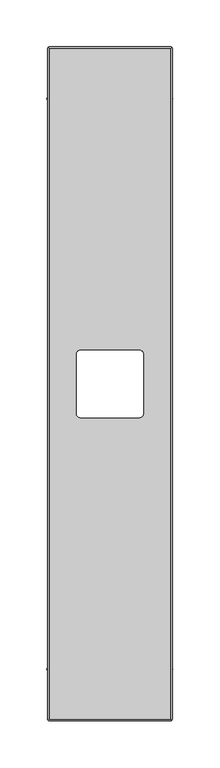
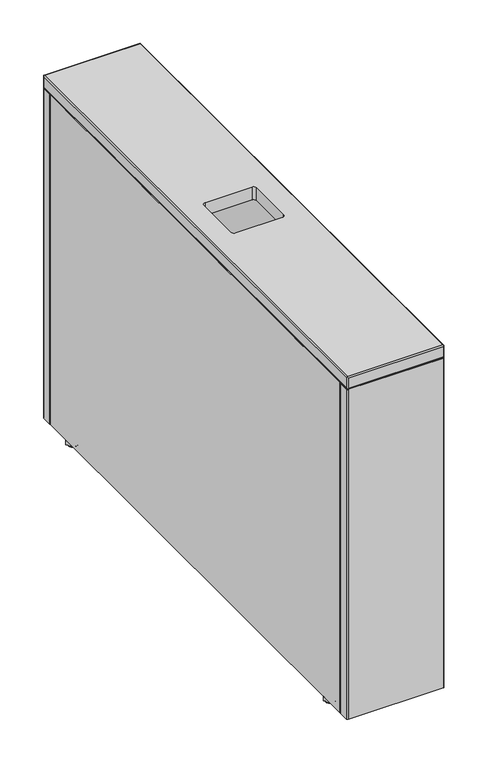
"""IFC4 building model written with IfcOpenShell, lengths in millimetres: furniture geometry, FREZZA_POP AD_Carter_for desk : Bracket_ZGBI - Embossed White."""

from ifc_helpers import new_model, si_unit, point, frame, frame_2d, origin, place, context, project, spatial, polyline, circle_curve, ellipse_curve, trimmed, segment, composite_curve, outline, extrude, source, transform, mapped, element, save
from ifc_brep_helpers import plane_surface, cylinder_surface, revolved_surface, advanced_brep


def furniture_3cd2dab1(model_context):
    return source(origin(), model_context, "Body", "SolidModel", [
        advanced_brep(
        [(1738.25, -743.75, 0.0), (1750.75, -743.75, 0.0), (1744.5, -743.75, 0.0), (1737.25, -743.75, 1.0), (1751.75, -743.75, 1.0), (1737.25, -743.75, 2.5), (1751.75, -743.75, 2.5), (1744.5, -743.75, 2.5)],
        [
            (0, 1, circle_curve(frame((1744.5, -743.75, 0.0), z_axis=(0.0, 0.0, -1.0), x_axis=(1.0, 0.0, 0.0)), 6.25)),
            (1, 2),
            (2, 0),
            (1, 0, circle_curve(frame((1744.5, -743.75, 0.0), z_axis=(0.0, 0.0, -1.0), x_axis=(1.0, 0.0, 0.0)), 6.25)),
            (3, 4, circle_curve(frame((1744.5, -743.75, 1.0), z_axis=(0.0, 0.0, -1.0), x_axis=(1.0, 0.0, 0.0)), 7.25)),
            (4, 1, circle_curve(frame((1750.75, -743.75, 1.0), z_axis=(0.0, 1.0, 0.0), x_axis=(1.0, 0.0, 0.0)), 1.0)),
            (0, 3, circle_curve(frame((1738.25, -743.75, 1.0), z_axis=(0.0, 1.0, 0.0), x_axis=(-1.0, 0.0, 0.0)), 1.0)),
            (4, 3, circle_curve(frame((1744.5, -743.75, 1.0), z_axis=(0.0, 0.0, -1.0), x_axis=(1.0, 0.0, 0.0)), 7.25)),
            (5, 6, circle_curve(frame((1744.5, -743.75, 2.5), z_axis=(0.0, 0.0, -1.0), x_axis=(1.0, 0.0, 0.0)), 7.25)),
            (6, 4),
            (3, 5),
            (6, 5, circle_curve(frame((1744.5, -743.75, 2.5), z_axis=(0.0, 0.0, -1.0), x_axis=(1.0, 0.0, 0.0)), 7.25)),
            (7, 6),
            (5, 7),
        ],
        [
            plane_surface(frame((1744.5, -743.75, 0.0), z_axis=(0.0, 0.0, -1.0), x_axis=(1.0, 0.0, 0.0))),
            revolved_surface(trimmed(ellipse_curve(frame((1750.75, -743.75, 1.0), z_axis=(0.0, -1.0, 0.0), x_axis=(1.0, 0.0, 0.0)), 1.0, 1.0), [point((1750.75, -743.75, 0.0))], [point((1751.75, -743.75, 1.0))], True, "CARTESIAN"), (1744.5, -743.75, 2.5), (0.0, 0.0, 1.0)),
            cylinder_surface(frame((1744.5, -743.75, 2.5), z_axis=(0.0, 0.0, 1.0), x_axis=(1.0, 0.0, 0.0)), 7.25),
            plane_surface(frame((1744.5, -743.75, 2.5), z_axis=(0.0, 0.0, 1.0), x_axis=(1.0, 0.0, 0.0))),
        ],
        [
            (0, [[1, 2, 3]]),
            (0, [[4, -3, -2]]),
            (1, [[5, 6, -1, 7]]),
            (1, [[8, -7, -4, -6]]),
            (2, [[9, 10, -5, 11]]),
            (2, [[12, -11, -8, -10]]),
            (3, [[13, -9, 14]]),
            (3, [[-14, -12, -13]]),
        ],
    ),
        extrude(outline(polyline([(1749.4074773, -735.25), (1754.3149546, -743.75), (1749.4074773, -752.25), (1739.5925227, -752.25), (1734.6850454, -743.75), (1739.5925227, -735.25), (1749.4074773, -735.25)])), frame((0.0, 0.0, 2.5), z_axis=(0.0, 0.0, 1.0), x_axis=(1.0, 0.0, 0.0)), (0.0, 0.0, 1.0), 5.5),
        advanced_brep(
        [(1629.5, -743.75, 0.0), (1623.25, -743.75, 0.0), (1635.75, -743.75, 0.0), (1622.25, -743.75, 1.0), (1636.75, -743.75, 1.0), (1622.25, -743.75, 2.5), (1636.75, -743.75, 2.5), (1629.5, -743.75, 2.5)],
        [
            (0, 1),
            (1, 2, circle_curve(frame((1629.5, -743.75, 0.0), z_axis=(0.0, 0.0, -1.0), x_axis=(-1.0, 0.0, 0.0)), 6.25)),
            (2, 0),
            (2, 1, circle_curve(frame((1629.5, -743.75, 0.0), z_axis=(0.0, 0.0, -1.0), x_axis=(-1.0, 0.0, 0.0)), 6.25)),
            (1, 3, circle_curve(frame((1623.25, -743.75, 1.0), z_axis=(0.0, 1.0, 0.0), x_axis=(-1.0, 0.0, 0.0)), 1.0)),
            (3, 4, circle_curve(frame((1629.5, -743.75, 1.0), z_axis=(0.0, 0.0, -1.0), x_axis=(-1.0, 0.0, 0.0)), 7.25)),
            (4, 2, circle_curve(frame((1635.75, -743.75, 1.0), z_axis=(0.0, 1.0, 0.0), x_axis=(1.0, 0.0, 0.0)), 1.0)),
            (4, 3, circle_curve(frame((1629.5, -743.75, 1.0), z_axis=(0.0, 0.0, -1.0), x_axis=(-1.0, 0.0, 0.0)), 7.25)),
            (3, 5),
            (5, 6, circle_curve(frame((1629.5, -743.75, 2.5), z_axis=(0.0, 0.0, -1.0), x_axis=(-1.0, 0.0, 0.0)), 7.25)),
            (6, 4),
            (6, 5, circle_curve(frame((1629.5, -743.75, 2.5), z_axis=(0.0, 0.0, -1.0), x_axis=(-1.0, 0.0, 0.0)), 7.25)),
            (5, 7),
            (7, 6),
        ],
        [
            plane_surface(frame((1629.5, -743.75, 0.0), z_axis=(0.0, 0.0, -1.0), x_axis=(-1.0, 0.0, 0.0))),
            revolved_surface(trimmed(ellipse_curve(frame((1623.25, -743.75, 1.0), z_axis=(0.0, -1.0, 0.0), x_axis=(-1.0, 0.0, 0.0)), 1.0, 1.0), [point((1622.25, -743.75, 1.0))], [point((1623.25, -743.75, 0.0))], True, "CARTESIAN"), (1629.5, -743.75, 2.5), (0.0, 0.0, -1.0)),
            cylinder_surface(frame((1629.5, -743.75, 2.5), z_axis=(0.0, 0.0, -1.0), x_axis=(-1.0, 0.0, 0.0)), 7.25),
            plane_surface(frame((1629.5, -743.75, 2.5), z_axis=(0.0, 0.0, 1.0), x_axis=(-1.0, 0.0, 0.0))),
        ],
        [
            (0, [[1, 2, 3]]),
            (0, [[-3, 4, -1]]),
            (1, [[-2, 5, 6, 7]]),
            (1, [[-4, -7, 8, -5]]),
            (2, [[-6, 9, 10, 11]]),
            (2, [[-8, -11, 12, -9]]),
            (3, [[-10, 13, 14]]),
            (3, [[-12, -14, -13]]),
        ],
    ),
        extrude(outline(polyline([(1624.5925227, -735.25), (1634.4074773, -735.25), (1639.3149546, -743.75), (1634.4074773, -752.25), (1624.5925227, -752.25), (1619.6850454, -743.75), (1624.5925227, -735.25)])), frame((0.0, 0.0, 2.5), z_axis=(0.0, 0.0, 1.0), x_axis=(1.0, 0.0, 0.0)), (0.0, 0.0, 1.0), 5.5),
        advanced_brep(
        [(1744.5, -135.75, 0.0), (1750.75, -135.75, 0.0), (1738.25, -135.75, 0.0), (1751.75, -135.75, 1.0), (1737.25, -135.75, 1.0), (1751.75, -135.75, 2.5), (1737.25, -135.75, 2.5), (1744.5, -135.75, 2.5)],
        [
            (0, 1),
            (1, 2, circle_curve(frame((1744.5, -135.75, 0.0), z_axis=(0.0, 0.0, -1.0), x_axis=(1.0, 0.0, 0.0)), 6.25)),
            (2, 0),
            (2, 1, circle_curve(frame((1744.5, -135.75, 0.0), z_axis=(0.0, 0.0, -1.0), x_axis=(1.0, 0.0, 0.0)), 6.25)),
            (1, 3, circle_curve(frame((1750.75, -135.75, 1.0), z_axis=(0.0, -1.0, 0.0), x_axis=(1.0, 0.0, 0.0)), 1.0)),
            (3, 4, circle_curve(frame((1744.5, -135.75, 1.0), z_axis=(0.0, 0.0, -1.0), x_axis=(1.0, 0.0, 0.0)), 7.25)),
            (4, 2, circle_curve(frame((1738.25, -135.75, 1.0), z_axis=(0.0, -1.0, 0.0), x_axis=(-1.0, 0.0, 0.0)), 1.0)),
            (4, 3, circle_curve(frame((1744.5, -135.75, 1.0), z_axis=(0.0, 0.0, -1.0), x_axis=(1.0, 0.0, 0.0)), 7.25)),
            (3, 5),
            (5, 6, circle_curve(frame((1744.5, -135.75, 2.5), z_axis=(0.0, 0.0, -1.0), x_axis=(1.0, 0.0, 0.0)), 7.25)),
            (6, 4),
            (6, 5, circle_curve(frame((1744.5, -135.75, 2.5), z_axis=(0.0, 0.0, -1.0), x_axis=(1.0, 0.0, 0.0)), 7.25)),
            (5, 7),
            (7, 6),
        ],
        [
            plane_surface(frame((1744.5, -135.75, 0.0), z_axis=(0.0, 0.0, -1.0), x_axis=(1.0, 0.0, 0.0))),
            revolved_surface(trimmed(ellipse_curve(frame((1750.75, -135.75, 1.0), z_axis=(0.0, 1.0, 0.0), x_axis=(1.0, 0.0, 0.0)), 1.0, 1.0), [point((1751.75, -135.75, 1.0))], [point((1750.75, -135.75, 0.0))], True, "CARTESIAN"), (1744.5, -135.75, 2.5), (0.0, 0.0, -1.0)),
            cylinder_surface(frame((1744.5, -135.75, 2.5), z_axis=(0.0, 0.0, -1.0), x_axis=(1.0, 0.0, 0.0)), 7.25),
            plane_surface(frame((1744.5, -135.75, 2.5), z_axis=(0.0, 0.0, 1.0), x_axis=(1.0, 0.0, 0.0))),
        ],
        [
            (0, [[1, 2, 3]]),
            (0, [[-3, 4, -1]]),
            (1, [[-2, 5, 6, 7]]),
            (1, [[-4, -7, 8, -5]]),
            (2, [[-6, 9, 10, 11]]),
            (2, [[-8, -11, 12, -9]]),
            (3, [[-10, 13, 14]]),
            (3, [[-12, -14, -13]]),
        ],
    ),
        extrude(outline(polyline([(1749.4074773, -144.25), (1739.5925227, -144.25), (1734.6850454, -135.75), (1739.5925227, -127.25), (1749.4074773, -127.25), (1754.3149546, -135.75), (1749.4074773, -144.25)])), frame((0.0, 0.0, 2.5), z_axis=(0.0, 0.0, 1.0), x_axis=(1.0, 0.0, 0.0)), (0.0, 0.0, 1.0), 5.5),
        advanced_brep(
        [(1635.75, -135.75, 0.0), (1623.25, -135.75, 0.0), (1629.5, -135.75, 0.0), (1636.75, -135.75, 1.0), (1622.25, -135.75, 1.0), (1636.75, -135.75, 2.5), (1622.25, -135.75, 2.5), (1629.5, -135.75, 2.5)],
        [
            (0, 1, circle_curve(frame((1629.5, -135.75, 0.0), z_axis=(0.0, 0.0, -1.0), x_axis=(-1.0, 0.0, 0.0)), 6.25)),
            (1, 2),
            (2, 0),
            (1, 0, circle_curve(frame((1629.5, -135.75, 0.0), z_axis=(0.0, 0.0, -1.0), x_axis=(-1.0, 0.0, 0.0)), 6.25)),
            (3, 4, circle_curve(frame((1629.5, -135.75, 1.0), z_axis=(0.0, 0.0, -1.0), x_axis=(-1.0, 0.0, 0.0)), 7.25)),
            (4, 1, circle_curve(frame((1623.25, -135.75, 1.0), z_axis=(0.0, -1.0, 0.0), x_axis=(-1.0, 0.0, 0.0)), 1.0)),
            (0, 3, circle_curve(frame((1635.75, -135.75, 1.0), z_axis=(0.0, -1.0, 0.0), x_axis=(1.0, 0.0, 0.0)), 1.0)),
            (4, 3, circle_curve(frame((1629.5, -135.75, 1.0), z_axis=(0.0, 0.0, -1.0), x_axis=(-1.0, 0.0, 0.0)), 7.25)),
            (5, 6, circle_curve(frame((1629.5, -135.75, 2.5), z_axis=(0.0, 0.0, -1.0), x_axis=(-1.0, 0.0, 0.0)), 7.25)),
            (6, 4),
            (3, 5),
            (6, 5, circle_curve(frame((1629.5, -135.75, 2.5), z_axis=(0.0, 0.0, -1.0), x_axis=(-1.0, 0.0, 0.0)), 7.25)),
            (7, 6),
            (5, 7),
        ],
        [
            plane_surface(frame((1629.5, -135.75, 0.0), z_axis=(0.0, 0.0, -1.0), x_axis=(-1.0, 0.0, 0.0))),
            revolved_surface(trimmed(ellipse_curve(frame((1623.25, -135.75, 1.0), z_axis=(0.0, 1.0, 0.0), x_axis=(-1.0, 0.0, 0.0)), 1.0, 1.0), [point((1623.25, -135.75, 0.0))], [point((1622.25, -135.75, 1.0))], True, "CARTESIAN"), (1629.5, -135.75, 2.5), (0.0, 0.0, 1.0)),
            cylinder_surface(frame((1629.5, -135.75, 2.5), z_axis=(0.0, 0.0, 1.0), x_axis=(-1.0, 0.0, 0.0)), 7.25),
            plane_surface(frame((1629.5, -135.75, 2.5), z_axis=(0.0, 0.0, 1.0), x_axis=(-1.0, 0.0, 0.0))),
        ],
        [
            (0, [[1, 2, 3]]),
            (0, [[4, -3, -2]]),
            (1, [[5, 6, -1, 7]]),
            (1, [[8, -7, -4, -6]]),
            (2, [[9, 10, -5, 11]]),
            (2, [[12, -11, -8, -10]]),
            (3, [[13, -9, 14]]),
            (3, [[-14, -12, -13]]),
        ],
    ),
        extrude(outline(polyline([(1624.5925227, -144.25), (1619.6850454, -135.75), (1624.5925227, -127.25), (1634.4074773, -127.25), (1639.3149546, -135.75), (1634.4074773, -144.25), (1624.5925227, -144.25)])), frame((0.0, 0.0, 2.5), z_axis=(0.0, 0.0, 1.0), x_axis=(1.0, 0.0, 0.0)), (0.0, 0.0, 1.0), 5.5),
        advanced_brep(
        [(1751.5, -796.75, 483.0), (1622.5, -796.75, 483.0), (1622.5, -82.75, 483.0), (1751.5, -82.75, 483.0), (1718.75, -404.0, 483.0), (1655.25, -404.0, 483.0), (1651.25, -408.0, 483.0), (1651.25, -471.5, 483.0), (1655.25, -475.5, 483.0), (1718.75, -475.5, 483.0), (1722.75, -471.5, 483.0), (1722.75, -408.0, 483.0), (1622.5, -796.75, 501.0), (1751.5, -796.75, 501.0), (1751.5, -82.75, 501.0), (1622.5, -82.75, 501.0), (1655.25, -404.0, 501.0), (1718.75, -404.0, 501.0), (1722.75, -408.0, 501.0), (1722.75, -471.5, 501.0), (1718.75, -475.5, 501.0), (1655.25, -475.5, 501.0), (1651.25, -471.5, 501.0), (1651.25, -408.0, 501.0), (1753.5, -82.75, 499.0), (1753.5, -82.75, 485.0), (1752.9142136, -81.3357864, 483.5857864), (1751.5, -80.75, 485.0), (1751.5, -80.75, 499.0), (1752.9142136, -81.3357864, 500.4142136), (1622.5, -80.75, 485.0), (1622.5, -80.75, 499.0), (1621.0857864, -81.3357864, 483.5857864), (1620.5, -82.75, 485.0), (1620.5, -82.75, 499.0), (1621.0857864, -81.3357864, 500.4142136), (1620.5, -796.75, 485.0), (1620.5, -796.75, 499.0), (1621.0857864, -798.1642136, 483.5857864), (1622.5, -798.75, 485.0), (1622.5, -798.75, 499.0), (1621.0857864, -798.1642136, 500.4142136), (1751.5, -798.75, 485.0), (1751.5, -798.75, 499.0), (1752.9142136, -798.1642136, 483.5857864), (1753.5, -796.75, 485.0), (1753.5, -796.75, 499.0), (1752.9142136, -798.1642136, 500.4142136)],
        [
            (0, 1),
            (1, 2),
            (2, 3),
            (3, 0),
            (4, 5),
            (5, 6, circle_curve(frame((1655.25, -408.0, 483.0), z_axis=(0.0, 0.0, 1.0), x_axis=(1.0, 0.0, 0.0)), 4.0)),
            (6, 7),
            (7, 8, circle_curve(frame((1655.25, -471.5, 483.0), z_axis=(0.0, 0.0, 1.0), x_axis=(1.0, 0.0, 0.0)), 4.0)),
            (8, 9),
            (9, 10, circle_curve(frame((1718.75, -471.5, 483.0), z_axis=(0.0, 0.0, 1.0), x_axis=(1.0, 0.0, 0.0)), 4.0)),
            (10, 11),
            (11, 4, circle_curve(frame((1718.75, -408.0, 483.0), z_axis=(0.0, 0.0, 1.0), x_axis=(1.0, 0.0, 0.0)), 4.0)),
            (12, 13),
            (13, 14),
            (14, 15),
            (15, 12),
            (16, 17),
            (17, 18, circle_curve(frame((1718.75, -408.0, 501.0), z_axis=(0.0, 0.0, -1.0), x_axis=(1.0, 0.0, 0.0)), 4.0)),
            (18, 19),
            (19, 20, circle_curve(frame((1718.75, -471.5, 501.0), z_axis=(0.0, 0.0, -1.0), x_axis=(1.0, 0.0, 0.0)), 4.0)),
            (20, 21),
            (21, 22, circle_curve(frame((1655.25, -471.5, 501.0), z_axis=(0.0, 0.0, -1.0), x_axis=(1.0, 0.0, 0.0)), 4.0)),
            (22, 23),
            (23, 16, circle_curve(frame((1655.25, -408.0, 501.0), z_axis=(0.0, 0.0, -1.0), x_axis=(1.0, 0.0, 0.0)), 4.0)),
            (24, 25),
            (25, 26, ellipse_curve(frame((1751.5, -82.75, 485.0), z_axis=(0.0, 0.7071067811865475, 0.7071067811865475), x_axis=(0.0, -0.7071067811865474, 0.7071067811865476)), 2.8284271, 2.0)),
            (26, 27, ellipse_curve(frame((1751.5, -82.75, 485.0), z_axis=(0.7071067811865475, 0.0, 0.7071067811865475), x_axis=(-0.7071067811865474, 0.0, 0.7071067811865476)), 2.8284271, 2.0)),
            (27, 28),
            (28, 29, ellipse_curve(frame((1751.5, -82.75, 499.0), z_axis=(0.7071067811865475, 0.0, -0.7071067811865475), x_axis=(0.7071067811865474, 0.0, 0.7071067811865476)), 2.8284271, 2.0)),
            (29, 24, ellipse_curve(frame((1751.5, -82.75, 499.0), z_axis=(0.0, 0.7071067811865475, -0.7071067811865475), x_axis=(0.0, 0.7071067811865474, 0.7071067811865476)), 2.8284271, 2.0)),
            (27, 30),
            (30, 31),
            (31, 28),
            (30, 32, ellipse_curve(frame((1622.5, -82.75, 485.0), z_axis=(-0.7071067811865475, 0.0, 0.7071067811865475), x_axis=(0.7071067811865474, 0.0, 0.7071067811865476)), 2.8284271, 2.0)),
            (32, 33, ellipse_curve(frame((1622.5, -82.75, 485.0), z_axis=(0.0, 0.7071067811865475, 0.7071067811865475), x_axis=(0.0, -0.7071067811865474, 0.7071067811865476)), 2.8284271, 2.0)),
            (33, 34),
            (34, 35, ellipse_curve(frame((1622.5, -82.75, 499.0), z_axis=(0.0, 0.7071067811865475, -0.7071067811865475), x_axis=(0.0, 0.7071067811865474, 0.7071067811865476)), 2.8284271, 2.0)),
            (35, 31, ellipse_curve(frame((1622.5, -82.75, 499.0), z_axis=(-0.7071067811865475, 0.0, -0.7071067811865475), x_axis=(-0.7071067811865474, 0.0, 0.7071067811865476)), 2.8284271, 2.0)),
            (33, 36),
            (36, 37),
            (37, 34),
            (36, 38, ellipse_curve(frame((1622.5, -796.75, 485.0), z_axis=(0.0, -0.7071067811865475, 0.7071067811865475), x_axis=(0.0, 0.7071067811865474, 0.7071067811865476)), 2.8284271, 2.0)),
            (38, 39, ellipse_curve(frame((1622.5, -796.75, 485.0), z_axis=(-0.7071067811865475, 0.0, 0.7071067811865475), x_axis=(0.7071067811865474, 0.0, 0.7071067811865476)), 2.8284271, 2.0)),
            (39, 40),
            (40, 41, ellipse_curve(frame((1622.5, -796.75, 499.0), z_axis=(-0.7071067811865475, 0.0, -0.7071067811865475), x_axis=(-0.7071067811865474, 0.0, 0.7071067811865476)), 2.8284271, 2.0)),
            (41, 37, ellipse_curve(frame((1622.5, -796.75, 499.0), z_axis=(0.0, -0.7071067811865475, -0.7071067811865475), x_axis=(0.0, -0.7071067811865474, 0.7071067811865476)), 2.8284271, 2.0)),
            (39, 42),
            (42, 43),
            (43, 40),
            (42, 44, ellipse_curve(frame((1751.5, -796.75, 485.0), z_axis=(0.7071067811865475, 0.0, 0.7071067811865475), x_axis=(-0.7071067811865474, 0.0, 0.7071067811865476)), 2.8284271, 2.0)),
            (44, 45, ellipse_curve(frame((1751.5, -796.75, 485.0), z_axis=(0.0, -0.7071067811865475, 0.7071067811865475), x_axis=(0.0, 0.7071067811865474, 0.7071067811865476)), 2.8284271, 2.0)),
            (45, 46),
            (46, 47, ellipse_curve(frame((1751.5, -796.75, 499.0), z_axis=(0.0, -0.7071067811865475, -0.7071067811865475), x_axis=(0.0, -0.7071067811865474, 0.7071067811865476)), 2.8284271, 2.0)),
            (47, 43, ellipse_curve(frame((1751.5, -796.75, 499.0), z_axis=(0.7071067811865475, 0.0, -0.7071067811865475), x_axis=(0.7071067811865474, 0.0, 0.7071067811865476)), 2.8284271, 2.0)),
            (24, 46),
            (45, 25),
            (12, 41, ellipse_curve(frame((1622.5, -796.75, 499.0), z_axis=(0.7071067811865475, -0.7071067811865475, 0.0), x_axis=(-0.7071067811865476, -0.7071067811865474, 0.0)), 2.8284271, 2.0)),
            (47, 13, ellipse_curve(frame((1751.5, -796.75, 499.0), z_axis=(-0.7071067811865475, -0.7071067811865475, 0.0), x_axis=(-0.7071067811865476, 0.7071067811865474, 0.0)), 2.8284271, 2.0)),
            (38, 1, ellipse_curve(frame((1622.5, -796.75, 485.0), z_axis=(0.7071067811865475, -0.7071067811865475, 0.0), x_axis=(-0.7071067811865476, -0.7071067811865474, 0.0)), 2.8284271, 2.0)),
            (0, 44, ellipse_curve(frame((1751.5, -796.75, 485.0), z_axis=(-0.7071067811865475, -0.7071067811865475, 0.0), x_axis=(-0.7071067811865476, 0.7071067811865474, 0.0)), 2.8284271, 2.0)),
            (15, 35, ellipse_curve(frame((1622.5, -82.75, 499.0), z_axis=(-0.7071067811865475, -0.7071067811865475, 0.0), x_axis=(-0.7071067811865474, 0.7071067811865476, 0.0)), 2.8284271, 2.0)),
            (32, 2, ellipse_curve(frame((1622.5, -82.75, 485.0), z_axis=(-0.7071067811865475, -0.7071067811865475, 0.0), x_axis=(-0.7071067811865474, 0.7071067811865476, 0.0)), 2.8284271, 2.0)),
            (14, 29, ellipse_curve(frame((1751.5, -82.75, 499.0), z_axis=(-0.7071067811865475, 0.7071067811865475, 0.0), x_axis=(0.7071067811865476, 0.7071067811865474, 0.0)), 2.8284271, 2.0)),
            (26, 3, ellipse_curve(frame((1751.5, -82.75, 485.0), z_axis=(-0.7071067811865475, 0.7071067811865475, 0.0), x_axis=(0.7071067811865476, 0.7071067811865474, 0.0)), 2.8284271, 2.0)),
            (4, 17),
            (16, 5),
            (23, 6),
            (22, 7),
            (21, 8),
            (20, 9),
            (19, 10),
            (18, 11),
        ],
        [
            plane_surface(frame((1751.5, -84.75, 483.0), z_axis=(0.0, 0.0, -1.0), x_axis=(-1.0, 0.0, 0.0))),
            plane_surface(frame((1751.5, -84.75, 501.0), z_axis=(0.0, 0.0, 1.0), x_axis=(1.0, 0.0, 0.0))),
            cylinder_surface(frame((1751.5, -82.75, 483.0), z_axis=(0.0, 0.0, 1.0), x_axis=(0.0, -1.0, 0.0)), 2.0),
            plane_surface(frame((1751.5, -80.75, 501.0), z_axis=(0.0, 1.0, 0.0), x_axis=(0.0, 0.0, -1.0))),
            cylinder_surface(frame((1622.5, -82.75, 483.0), z_axis=(0.0, 0.0, 1.0), x_axis=(0.0, -1.0, 0.0)), 2.0),
            plane_surface(frame((1620.5, -82.75, 501.0), z_axis=(-1.0, 0.0, 0.0), x_axis=(0.0, 0.0, -1.0))),
            cylinder_surface(frame((1622.5, -796.75, 483.0), z_axis=(0.0, 0.0, 1.0), x_axis=(0.0, -1.0, 0.0)), 2.0),
            plane_surface(frame((1622.5, -798.75, 501.0), z_axis=(0.0, -1.0, 0.0), x_axis=(0.0, 0.0, -1.0))),
            cylinder_surface(frame((1751.5, -796.75, 483.0), z_axis=(0.0, 0.0, 1.0), x_axis=(0.0, -1.0, 0.0)), 2.0),
            plane_surface(frame((1753.5, -796.75, 501.0), z_axis=(1.0, 0.0, 0.0), x_axis=(0.0, 0.0, -1.0))),
            cylinder_surface(frame((1753.5, -796.75, 499.0), z_axis=(-1.0, 0.0, 0.0), x_axis=(0.0, -1.0, 0.0)), 2.0),
            cylinder_surface(frame((1753.5, -796.75, 485.0), z_axis=(-1.0, 0.0, 0.0), x_axis=(0.0, -1.0, 0.0)), 2.0),
            cylinder_surface(frame((1622.5, -798.75, 499.0), z_axis=(0.0, 1.0, 0.0), x_axis=(-1.0, 0.0, 0.0)), 2.0),
            cylinder_surface(frame((1622.5, -798.75, 485.0), z_axis=(0.0, 1.0, 0.0), x_axis=(-1.0, 0.0, 0.0)), 2.0),
            cylinder_surface(frame((1620.5, -82.75, 499.0), z_axis=(1.0, 0.0, 0.0), x_axis=(0.0, 1.0, 0.0)), 2.0),
            cylinder_surface(frame((1620.5, -82.75, 485.0), z_axis=(1.0, 0.0, 0.0), x_axis=(0.0, 1.0, 0.0)), 2.0),
            cylinder_surface(frame((1751.5, -80.75, 499.0), z_axis=(0.0, -1.0, 0.0), x_axis=(1.0, 0.0, 0.0)), 2.0),
            cylinder_surface(frame((1751.5, -80.75, 485.0), z_axis=(0.0, -1.0, 0.0), x_axis=(1.0, 0.0, 0.0)), 2.0),
            plane_surface(frame((1655.25, -404.0, 483.0), z_axis=(0.0, -1.0, 0.0), x_axis=(0.0, 0.0, 1.0))),
            revolved_surface(polyline([(1659.25, -408.0, 483.0), (1659.25, -408.0, 501.0)]), (1655.25, -408.0, 501.0), (0.0, 0.0, -1.0)),
            plane_surface(frame((1651.25, -471.5, 483.0), z_axis=(1.0, 0.0, 0.0), x_axis=(0.0, 0.0, 1.0))),
            revolved_surface(polyline([(1659.25, -471.5, 483.0), (1659.25, -471.5, 501.0)]), (1655.25, -471.5, 501.0), (0.0, 0.0, -1.0)),
            plane_surface(frame((1718.75, -475.5, 483.0), z_axis=(0.0, 1.0, 0.0), x_axis=(0.0, 0.0, 1.0))),
            revolved_surface(polyline([(1722.75, -471.5, 483.0), (1722.75, -471.5, 501.0)]), (1718.75, -471.5, 501.0), (0.0, 0.0, -1.0)),
            plane_surface(frame((1722.75, -408.0, 483.0), z_axis=(-1.0, 0.0, 0.0), x_axis=(0.0, 0.0, 1.0))),
            revolved_surface(polyline([(1722.75, -408.0, 483.0), (1722.75, -408.0, 501.0)]), (1718.75, -408.0, 501.0), (0.0, 0.0, -1.0)),
        ],
        [
            (0, [[1, 2, 3, 4], [5, 6, 7, 8, 9, 10, 11, 12]]),
            (1, [[13, 14, 15, 16], [17, 18, 19, 20, 21, 22, 23, 24]]),
            (2, [[25, 26, 27, 28, 29, 30]]),
            (3, [[-28, 31, 32, 33]]),
            (4, [[-32, 34, 35, 36, 37, 38]]),
            (5, [[-36, 39, 40, 41]]),
            (6, [[-40, 42, 43, 44, 45, 46]]),
            (7, [[-44, 47, 48, 49]]),
            (8, [[-48, 50, 51, 52, 53, 54]]),
            (9, [[-25, 55, -52, 56]]),
            (10, [[57, -45, -49, -54, 58, -13]]),
            (11, [[59, -1, 60, -50, -47, -43]]),
            (12, [[-57, -16, 61, -37, -41, -46]]),
            (13, [[-59, -42, -39, -35, 62, -2]]),
            (14, [[-61, -15, 63, -29, -33, -38]]),
            (15, [[-62, -34, -31, -27, 64, -3]]),
            (16, [[-63, -14, -58, -53, -55, -30]]),
            (17, [[-64, -26, -56, -51, -60, -4]]),
            (18, [[65, -17, 66, -5]]),
            (19, [[-66, -24, 67, -6]]),
            (20, [[-67, -23, 68, -7]]),
            (21, [[-68, -22, 69, -8]]),
            (22, [[-69, -21, 70, -9]]),
            (23, [[-70, -20, 71, -10]]),
            (24, [[-71, -19, 72, -11]]),
            (25, [[-65, -12, -72, -18]]),
        ],
    ),
        extrude(outline(composite_curve([segment(trimmed(circle_curve(frame_2d((1622.5, -96.75)), 2.0), [point((1622.5, -98.75))], [point((1620.5, -96.75))], False, "CARTESIAN"), True, "CONTINUOUS"), segment(polyline([(1620.5, -96.75), (1620.5, -82.75)]), True, "CONTINUOUS"), segment(trimmed(circle_curve(frame_2d((1622.5, -82.75)), 2.0), [point((1620.5, -82.75))], [point((1622.5, -80.75))], False, "CARTESIAN"), True, "CONTINUOUS"), segment(polyline([(1622.5, -80.75), (1751.5, -80.75)]), True, "CONTINUOUS"), segment(trimmed(circle_curve(frame_2d((1751.5, -82.75)), 2.0), [point((1751.5, -80.75))], [point((1753.5, -82.75))], False, "CARTESIAN"), True, "CONTINUOUS"), segment(polyline([(1753.5, -82.75), (1753.5, -96.75)]), True, "CONTINUOUS"), segment(trimmed(circle_curve(frame_2d((1751.5, -96.75)), 2.0), [point((1753.5, -96.75))], [point((1751.5, -98.75))], False, "CARTESIAN"), True, "CONTINUOUS"), segment(polyline([(1751.5, -98.75), (1622.5, -98.75)]), True, "CONTINUOUS")], self_intersect=False)), frame((0.0, 0.0, 8.0), z_axis=(0.0, 0.0, 1.0), x_axis=(1.0, 0.0, 0.0)), (0.0, 0.0, 1.0), 475.0),
        extrude(outline(composite_curve([segment(polyline([(1622.5, -780.75), (1751.5, -780.75)]), True, "CONTINUOUS"), segment(trimmed(circle_curve(frame_2d((1751.5, -782.75)), 2.0), [point((1751.5, -780.75))], [point((1753.5, -782.75))], False, "CARTESIAN"), True, "CONTINUOUS"), segment(polyline([(1753.5, -782.75), (1753.5, -796.75)]), True, "CONTINUOUS"), segment(trimmed(circle_curve(frame_2d((1751.5, -796.75)), 2.0), [point((1753.5, -796.75))], [point((1751.5, -798.75))], False, "CARTESIAN"), True, "CONTINUOUS"), segment(polyline([(1751.5, -798.75), (1622.5, -798.75)]), True, "CONTINUOUS"), segment(trimmed(circle_curve(frame_2d((1622.5, -796.75)), 2.0), [point((1622.5, -798.75))], [point((1620.5, -796.75))], False, "CARTESIAN"), True, "CONTINUOUS"), segment(polyline([(1620.5, -796.75), (1620.5, -782.75)]), True, "CONTINUOUS"), segment(trimmed(circle_curve(frame_2d((1622.5, -782.75)), 2.0), [point((1620.5, -782.75))], [point((1622.5, -780.75))], False, "CARTESIAN"), True, "CONTINUOUS")], self_intersect=False)), frame((0.0, 0.0, 8.0), z_axis=(0.0, 0.0, 1.0), x_axis=(1.0, 0.0, 0.0)), (0.0, 0.0, 1.0), 475.0),
        extrude(outline(polyline([(1735.5, -780.75), (1735.5, -98.75), (1753.5, -98.75), (1753.5, -780.75), (1735.5, -780.75)])), frame((0.0, 0.0, 8.0), z_axis=(0.0, 0.0, 1.0), x_axis=(1.0, 0.0, 0.0)), (0.0, 0.0, 1.0), 475.0),
        extrude(outline(polyline([(1620.5, -780.75), (1620.5, -98.75), (1638.5, -98.75), (1638.5, -780.75), (1620.5, -780.75)])), frame((0.0, 0.0, 8.0), z_axis=(0.0, 0.0, 1.0), x_axis=(1.0, 0.0, 0.0)), (0.0, 0.0, 1.0), 475.0),
    ])


if __name__ == "__main__":
    model = new_model("IFC4")
    model_context = context("Model", 3, world=origin())
    ifc_project = project(units=[si_unit("LENGTHUNIT", "METRE", prefix="MILLI")], contexts=[model_context])
    site = spatial("IfcSite", under=ifc_project)
    building = spatial("IfcBuilding", under=site)
    placement = place(None, origin())
    furniture_shape = furniture_3cd2dab1(model_context)
    element("IfcFurniture", 1, ObjectType="FREZZA_POP AD_Carter_for desk : Bracket_ZGBI - Embossed White", at=placement, inside=building, context=model_context, shape_type="MappedRepresentation", body=[
        mapped(furniture_shape, transform((0.0, 0.0, 0.0), x_axis=(1.0, 0.0, 0.0), y_axis=(0.0, 1.0, 0.0), z_axis=(0.0, 0.0, 1.0))),
    ])
    save(model, "model.ifc")
